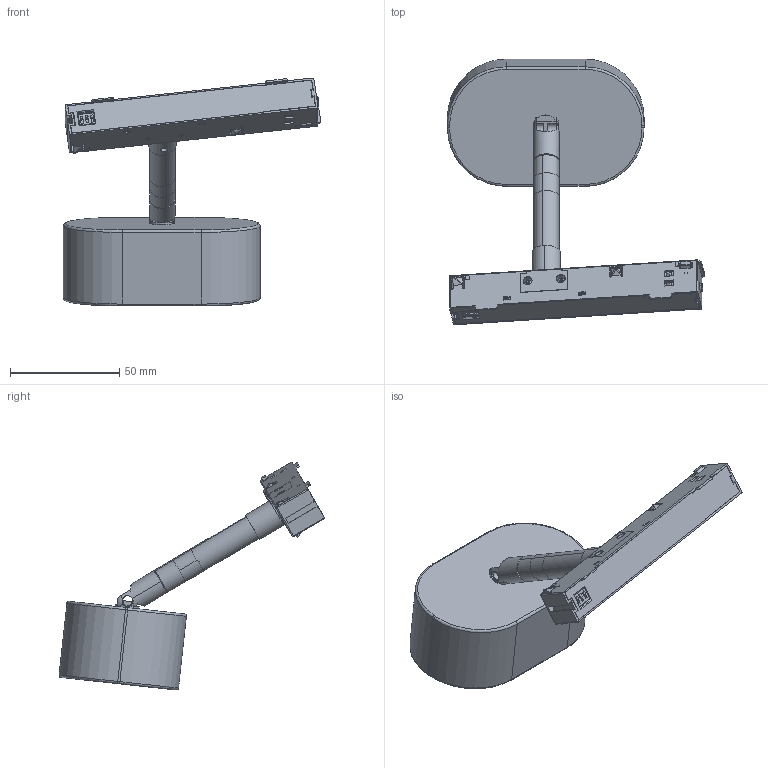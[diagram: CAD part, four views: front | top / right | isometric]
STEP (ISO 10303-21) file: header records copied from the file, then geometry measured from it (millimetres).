
FILE_DESCRIPTION (( 'STEP AP214' ), '1' );
FILE_NAME ('SPEAK_tracklight.STEP', '2025-09-19T07:39:04', ( '' ), ( '' ), 'SwSTEP 2.0', 'SolidWorks 2018', '' );
FILE_SCHEMA (( 'AUTOMOTIVE_DESIGN' ));
Length unit declared in the file: millimetre
Products named in the file (5): Rotula1 1; Track Light-Oval-1; SPEAK_tracklight; Rotula_coco; prueba 2
Assembly tree (4 placements, depth 2):
  SPEAK_tracklight
    Track Light-Oval-1
    Rotula1 1
    Rotula_coco
    prueba 2
Bounding box: 117.71 x 121.67 x 104.33 mm (x, y, z)
Volume: 149214.8 mm3; surface area: 53621.2 mm2
Topology: 8 solids, 37 shells, 1656 faces, 4571 edges, 2973 vertices
Faces by surface type: plane 1248, cylinder 261, bspline 77, cone 48, torus 22
Entity records: 75081 total; most frequent: CARTESIAN_POINT 18068, ORIENTED_EDGE 9096, DIRECTION 6737, EDGE_CURVE 4554, VERTEX_POINT 2973, VECTOR 2663, LINE 2663, AXIS2_PLACEMENT_3D 2037
